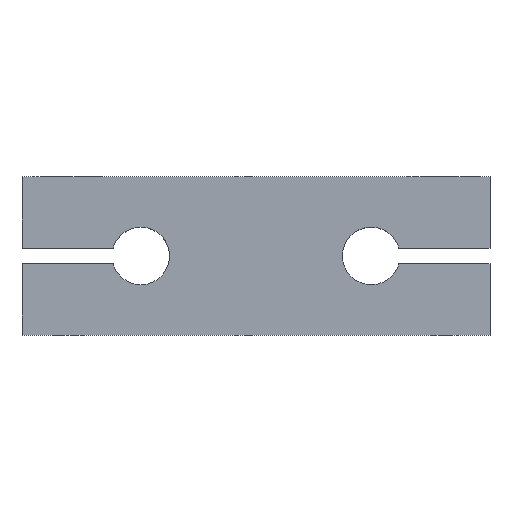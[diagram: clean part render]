
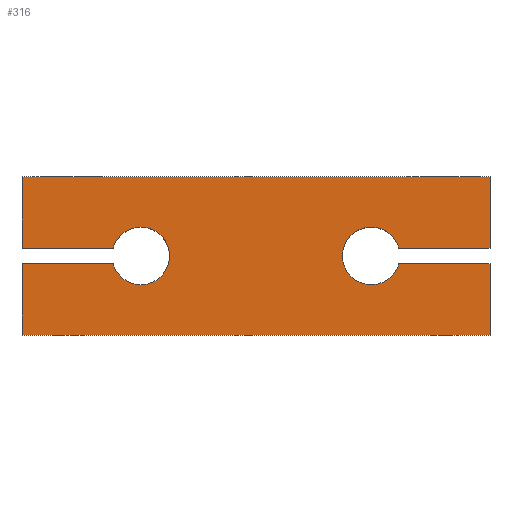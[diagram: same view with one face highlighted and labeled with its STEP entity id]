
A CAD part, top view. The second image highlights one B-rep face of the part: STEP entity #316.
In plain terms, the highlighted planar face has unit normal (0, 0, 1).
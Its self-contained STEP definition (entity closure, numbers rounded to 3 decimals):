
#12 = AXIS2_PLACEMENT_3D ( 'NONE', #949, #460, #563 ) ;
#28 = CARTESIAN_POINT ( 'NONE',  ( -32.5, 11., 6. ) ) ;
#36 = LINE ( 'NONE', #841, #892 ) ;
#63 = EDGE_CURVE ( 'NONE', #984, #547, #287, .T. ) ;
#118 = CARTESIAN_POINT ( 'NONE',  ( -19.853, -1.075, 6. ) ) ;
#134 = CARTESIAN_POINT ( 'NONE',  ( 19.853, 1.075, 6. ) ) ;
#139 = CIRCLE ( 'NONE', #12, 4. ) ;
#142 = FACE_OUTER_BOUND ( 'NONE', #641, .T. ) ;
#147 = LINE ( 'NONE', #248, #913 ) ;
#159 = CARTESIAN_POINT ( 'NONE',  ( -32.5, 1.075, 6. ) ) ;
#165 = VERTEX_POINT ( 'NONE', #118 ) ;
#183 = DIRECTION ( 'NONE',  ( -1., 0., 0. ) ) ;
#204 = EDGE_CURVE ( 'NONE', #1257, #1096, #512, .T. ) ;
#208 = ORIENTED_EDGE ( 'NONE', *, *, #637, .F. ) ;
#212 = VECTOR ( 'NONE', #1185, 1000. ) ;
#220 = EDGE_CURVE ( 'NONE', #165, #422, #315, .T. ) ;
#248 = CARTESIAN_POINT ( 'NONE',  ( -32.5, 11., 6. ) ) ;
#251 = CARTESIAN_POINT ( 'NONE',  ( -32.5, 1.075, 6. ) ) ;
#254 = ORIENTED_EDGE ( 'NONE', *, *, #220, .F. ) ;
#269 = DIRECTION ( 'NONE',  ( 1., 0., 0. ) ) ;
#273 = VERTEX_POINT ( 'NONE', #28 ) ;
#287 = LINE ( 'NONE', #694, #492 ) ;
#315 = CIRCLE ( 'NONE', #1235, 4. ) ;
#316 = ADVANCED_FACE ( 'NONE', ( #142 ), #466, .T. ) ;
#330 = LINE ( 'NONE', #1158, #1110 ) ;
#332 = DIRECTION ( 'NONE',  ( 0., -1., 0. ) ) ;
#348 = DIRECTION ( 'NONE',  ( 0., 0., 1. ) ) ;
#371 = EDGE_CURVE ( 'NONE', #547, #804, #139, .T. ) ;
#397 = CARTESIAN_POINT ( 'NONE',  ( -32.5, -1.075, 6. ) ) ;
#399 = EDGE_CURVE ( 'NONE', #422, #615, #427, .T. ) ;
#410 = VECTOR ( 'NONE', #679, 1000. ) ;
#421 = DIRECTION ( 'NONE',  ( 1., 0., 0. ) ) ;
#422 = VERTEX_POINT ( 'NONE', #718 ) ;
#427 = CIRCLE ( 'NONE', #1256, 4. ) ;
#455 = CARTESIAN_POINT ( 'NONE',  ( -16., 0., 6. ) ) ;
#460 = DIRECTION ( 'NONE',  ( 0., 0., 1. ) ) ;
#466 = PLANE ( 'NONE',  #1325 ) ;
#492 = VECTOR ( 'NONE', #183, 1000. ) ;
#512 = LINE ( 'NONE', #931, #1088 ) ;
#545 = DIRECTION ( 'NONE',  ( 1., 0., 0. ) ) ;
#547 = VERTEX_POINT ( 'NONE', #134 ) ;
#557 = EDGE_CURVE ( 'NONE', #984, #568, #330, .T. ) ;
#563 = DIRECTION ( 'NONE',  ( 1., 0., 0. ) ) ;
#566 = CARTESIAN_POINT ( 'NONE',  ( -32.5, -11., 6. ) ) ;
#567 = ORIENTED_EDGE ( 'NONE', *, *, #656, .T. ) ;
#568 = VERTEX_POINT ( 'NONE', #858 ) ;
#572 = LINE ( 'NONE', #650, #745 ) ;
#576 = DIRECTION ( 'NONE',  ( 0., 0., 1. ) ) ;
#586 = VECTOR ( 'NONE', #697, 1000. ) ;
#597 = ORIENTED_EDGE ( 'NONE', *, *, #399, .F. ) ;
#605 = LINE ( 'NONE', #618, #1047 ) ;
#612 = CARTESIAN_POINT ( 'NONE',  ( -32.5, -11., 6. ) ) ;
#615 = VERTEX_POINT ( 'NONE', #1175 ) ;
#618 = CARTESIAN_POINT ( 'NONE',  ( -32.5, -1.075, 6. ) ) ;
#629 = EDGE_CURVE ( 'NONE', #568, #273, #572, .T. ) ;
#637 = EDGE_CURVE ( 'NONE', #804, #700, #36, .T. ) ;
#641 = EDGE_LOOP ( 'NONE', ( #1149, #597, #254, #1280, #758, #1034, #1294, #208, #1186, #964, #1102, #1203, #567 ) ) ;
#650 = CARTESIAN_POINT ( 'NONE',  ( -32.5, 11., 6. ) ) ;
#656 = EDGE_CURVE ( 'NONE', #273, #738, #147, .T. ) ;
#679 = DIRECTION ( 'NONE',  ( -1., 0., 0. ) ) ;
#694 = CARTESIAN_POINT ( 'NONE',  ( 15., 1.075, 6. ) ) ;
#697 = DIRECTION ( 'NONE',  ( 0., 1., 0. ) ) ;
#700 = VERTEX_POINT ( 'NONE', #1091 ) ;
#718 = CARTESIAN_POINT ( 'NONE',  ( -12., 0., 6. ) ) ;
#738 = VERTEX_POINT ( 'NONE', #159 ) ;
#745 = VECTOR ( 'NONE', #967, 1000. ) ;
#758 = ORIENTED_EDGE ( 'NONE', *, *, #204, .T. ) ;
#796 = CARTESIAN_POINT ( 'NONE',  ( 32.5, 11., 6. ) ) ;
#804 = VERTEX_POINT ( 'NONE', #902 ) ;
#841 = CARTESIAN_POINT ( 'NONE',  ( 15., -1.075, 6. ) ) ;
#843 = CARTESIAN_POINT ( 'NONE',  ( -16., 0., 6. ) ) ;
#849 = DIRECTION ( 'NONE',  ( 0., -1., 0. ) ) ;
#858 = CARTESIAN_POINT ( 'NONE',  ( 32.5, 11., 6. ) ) ;
#874 = CARTESIAN_POINT ( 'NONE',  ( 32.5, 1.075, 6. ) ) ;
#892 = VECTOR ( 'NONE', #973, 1000. ) ;
#902 = CARTESIAN_POINT ( 'NONE',  ( 19.853, -1.075, 6. ) ) ;
#904 = LINE ( 'NONE', #796, #586 ) ;
#913 = VECTOR ( 'NONE', #849, 1000. ) ;
#928 = EDGE_CURVE ( 'NONE', #1096, #1077, #1142, .T. ) ;
#931 = CARTESIAN_POINT ( 'NONE',  ( -32.5, 11., 6. ) ) ;
#942 = DIRECTION ( 'NONE',  ( 0., 1., 0. ) ) ;
#949 = CARTESIAN_POINT ( 'NONE',  ( 16., 0., 6. ) ) ;
#964 = ORIENTED_EDGE ( 'NONE', *, *, #63, .F. ) ;
#967 = DIRECTION ( 'NONE',  ( -1., 0., 0. ) ) ;
#973 = DIRECTION ( 'NONE',  ( 1., 0., 0. ) ) ;
#984 = VERTEX_POINT ( 'NONE', #874 ) ;
#988 = EDGE_CURVE ( 'NONE', #615, #738, #1178, .T. ) ;
#1034 = ORIENTED_EDGE ( 'NONE', *, *, #928, .T. ) ;
#1047 = VECTOR ( 'NONE', #421, 1000. ) ;
#1077 = VERTEX_POINT ( 'NONE', #1313 ) ;
#1088 = VECTOR ( 'NONE', #332, 1000. ) ;
#1091 = CARTESIAN_POINT ( 'NONE',  ( 32.5, -1.075, 6. ) ) ;
#1096 = VERTEX_POINT ( 'NONE', #612 ) ;
#1102 = ORIENTED_EDGE ( 'NONE', *, *, #557, .T. ) ;
#1110 = VECTOR ( 'NONE', #942, 1000. ) ;
#1113 = EDGE_CURVE ( 'NONE', #1077, #700, #904, .T. ) ;
#1142 = LINE ( 'NONE', #566, #212 ) ;
#1149 = ORIENTED_EDGE ( 'NONE', *, *, #988, .F. ) ;
#1158 = CARTESIAN_POINT ( 'NONE',  ( 32.5, 11., 6. ) ) ;
#1170 = DIRECTION ( 'NONE',  ( 0., 0., 1. ) ) ;
#1175 = CARTESIAN_POINT ( 'NONE',  ( -19.853, 1.075, 6. ) ) ;
#1178 = LINE ( 'NONE', #251, #410 ) ;
#1181 = EDGE_CURVE ( 'NONE', #1257, #165, #605, .T. ) ;
#1185 = DIRECTION ( 'NONE',  ( 1., 0., 0. ) ) ;
#1186 = ORIENTED_EDGE ( 'NONE', *, *, #371, .F. ) ;
#1203 = ORIENTED_EDGE ( 'NONE', *, *, #629, .T. ) ;
#1235 = AXIS2_PLACEMENT_3D ( 'NONE', #843, #348, #545 ) ;
#1256 = AXIS2_PLACEMENT_3D ( 'NONE', #455, #576, #1266 ) ;
#1257 = VERTEX_POINT ( 'NONE', #397 ) ;
#1266 = DIRECTION ( 'NONE',  ( 1., 0., 0. ) ) ;
#1274 = CARTESIAN_POINT ( 'NONE',  ( 0., 0., 6. ) ) ;
#1280 = ORIENTED_EDGE ( 'NONE', *, *, #1181, .F. ) ;
#1294 = ORIENTED_EDGE ( 'NONE', *, *, #1113, .T. ) ;
#1313 = CARTESIAN_POINT ( 'NONE',  ( 32.5, -11., 6. ) ) ;
#1325 = AXIS2_PLACEMENT_3D ( 'NONE', #1274, #1170, #269 ) ;
